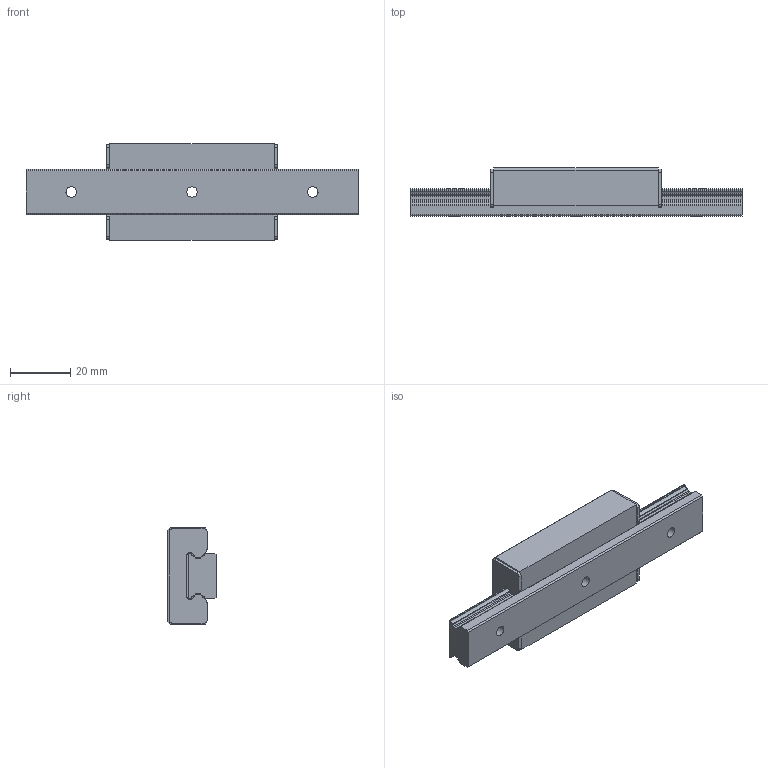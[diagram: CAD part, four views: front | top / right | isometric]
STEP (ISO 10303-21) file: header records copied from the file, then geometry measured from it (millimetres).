
FILE_DESCRIPTION(/* description */ ('STEP AP203'),/* implementation_level */ '2;1');
FILE_NAME(/* name */ 'EPF15M34-110LM_G15_0_26-75_1',/* time_stamp */ '2024-05-21T04:13:17+02:00',/* author */ ('License CC BY-ND 4.0'),/* organization */ ('CADENAS'),/* preprocessor_version */ 'ST-DEVELOPER v19.3',/* originating_system */ 'PARTsolutions',/* authorisation */ ' ');
FILE_SCHEMA (('CONFIG_CONTROL_DESIGN'));
Length unit declared in the file: millimetre
Products named in the file (3): EPF15M34-110LM_G15_0_26-75_1; EPF15 M11015 R Track; Slider--EPF15 M-15-11
Assembly tree (2 placements, depth 2):
  EPF15M34-110LM_G15_0_26-75_1
    EPF15 M11015 R Track
    Slider--EPF15 M-15-11
Bounding box: 110 x 16 x 32 mm (x, y, z)
Volume: 31229.3 mm3; surface area: 12840.6 mm2
Topology: 2 solids, 2 shells, 148 faces, 412 edges, 271 vertices
Faces by surface type: plane 71, cylinder 67, cone 10
Full cylindrical faces by diameter (mm): 2.459 x4, 3.5 x3, 6 x3, 7 x1
Entity records: 4675 total; most frequent: DIRECTION 826, CARTESIAN_POINT 795, ORIENTED_EDGE 760, EDGE_CURVE 380, AXIS2_PLACEMENT_3D 295, VERTEX_POINT 264, LINE 236, VECTOR 236
